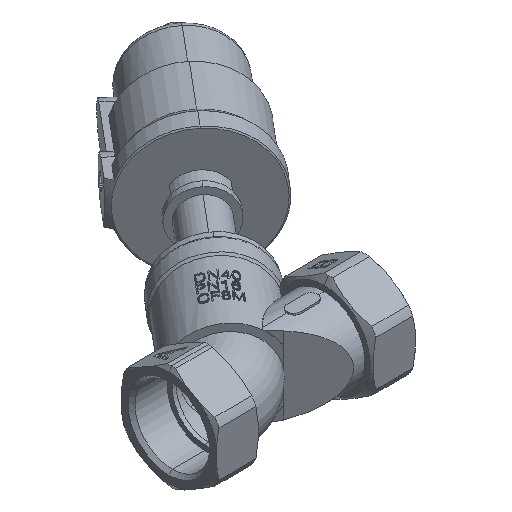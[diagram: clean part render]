
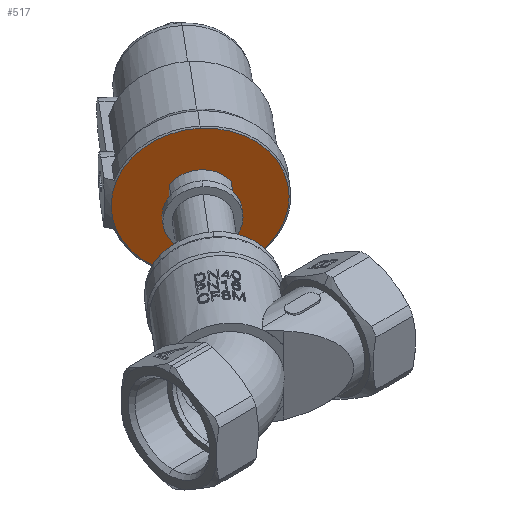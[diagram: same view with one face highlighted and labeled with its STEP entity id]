
A CAD part, isometric view. The second image highlights one B-rep face of the part: STEP entity #517.
In plain terms, the highlighted planar face has unit normal (-0.643, -0.766, 0) as drawn and (0, -1, 0) by its records, which use the part's own axes.
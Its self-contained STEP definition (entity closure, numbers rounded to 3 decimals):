
#108 = VECTOR ( 'NONE', #18576, 1000. ) ;
#142 = VERTEX_POINT ( 'NONE', #13873 ) ;
#204 = AXIS2_PLACEMENT_3D ( 'NONE', #14515, #21642, #12114 ) ;
#319 = ORIENTED_EDGE ( 'NONE', *, *, #6599, .F. ) ;
#389 = ORIENTED_EDGE ( 'NONE', *, *, #1430, .T. ) ;
#517 = ADVANCED_FACE ( 'NONE', ( #15398, #14656 ), #21864, .F. ) ;
#1430 = EDGE_CURVE ( 'NONE', #142, #16740, #12653, .T. ) ;
#1551 = DIRECTION ( 'NONE',  ( 0., 0., -1. ) ) ;
#1863 = CARTESIAN_POINT ( 'NONE',  ( 12.968, 0., -9.371 ) ) ;
#2522 = DIRECTION ( 'NONE',  ( 0., 0., 1. ) ) ;
#2606 = ORIENTED_EDGE ( 'NONE', *, *, #27794, .F. ) ;
#3270 = VERTEX_POINT ( 'NONE', #11007 ) ;
#3635 = CARTESIAN_POINT ( 'NONE',  ( 0., 0., 0. ) ) ;
#4897 = CARTESIAN_POINT ( 'NONE',  ( 0., 0., 0. ) ) ;
#5630 = VERTEX_POINT ( 'NONE', #1863 ) ;
#5957 = EDGE_CURVE ( 'NONE', #29016, #3270, #8161, .T. ) ;
#6176 = ORIENTED_EDGE ( 'NONE', *, *, #5957, .F. ) ;
#6599 = EDGE_CURVE ( 'NONE', #3270, #5630, #21631, .T. ) ;
#7303 = DIRECTION ( 'NONE',  ( 0., -1., 0. ) ) ;
#7540 = CARTESIAN_POINT ( 'NONE',  ( 0., 0., 0. ) ) ;
#8161 = LINE ( 'NONE', #9218, #22732 ) ;
#9120 = CIRCLE ( 'NONE', #204, 16. ) ;
#9218 = CARTESIAN_POINT ( 'NONE',  ( -12.968, 0., 9.371 ) ) ;
#9729 = AXIS2_PLACEMENT_3D ( 'NONE', #14280, #16678, #21804 ) ;
#10736 = EDGE_CURVE ( 'NONE', #16740, #142, #17066, .T. ) ;
#11007 = CARTESIAN_POINT ( 'NONE',  ( -12.968, 0., -9.371 ) ) ;
#12114 = DIRECTION ( 'NONE',  ( 0., 0., -1. ) ) ;
#12653 = CIRCLE ( 'NONE', #16981, 37.19 ) ;
#13873 = CARTESIAN_POINT ( 'NONE',  ( 0., 0., 37.19 ) ) ;
#14280 = CARTESIAN_POINT ( 'NONE',  ( 0., 0., 0. ) ) ;
#14515 = CARTESIAN_POINT ( 'NONE',  ( 0., 0., 0. ) ) ;
#14585 = CARTESIAN_POINT ( 'NONE',  ( 12.968, 0., 9.371 ) ) ;
#14656 = FACE_BOUND ( 'NONE', #17469, .T. ) ;
#15398 = FACE_OUTER_BOUND ( 'NONE', #29596, .T. ) ;
#15788 = AXIS2_PLACEMENT_3D ( 'NONE', #7540, #16856, #2522 ) ;
#16485 = CARTESIAN_POINT ( 'NONE',  ( 0., 0., -37.19 ) ) ;
#16630 = AXIS2_PLACEMENT_3D ( 'NONE', #3635, #25090, #1551 ) ;
#16678 = DIRECTION ( 'NONE',  ( 0., -1., 0. ) ) ;
#16740 = VERTEX_POINT ( 'NONE', #16485 ) ;
#16856 = DIRECTION ( 'NONE',  ( 0., 1., 0. ) ) ;
#16981 = AXIS2_PLACEMENT_3D ( 'NONE', #4897, #7303, #24042 ) ;
#17066 = CIRCLE ( 'NONE', #28819, 37.19 ) ;
#17469 = EDGE_LOOP ( 'NONE', ( #24244, #19667, #319, #6176, #2606 ) ) ;
#17809 = ORIENTED_EDGE ( 'NONE', *, *, #10736, .T. ) ;
#18045 = CARTESIAN_POINT ( 'NONE',  ( -12.968, 0., 9.371 ) ) ;
#18271 = CARTESIAN_POINT ( 'NONE',  ( 0., 0., 0. ) ) ;
#18395 = EDGE_CURVE ( 'NONE', #26117, #30553, #9120, .T. ) ;
#18576 = DIRECTION ( 'NONE',  ( 0., 0., 1. ) ) ;
#19667 = ORIENTED_EDGE ( 'NONE', *, *, #19881, .F. ) ;
#19881 = EDGE_CURVE ( 'NONE', #5630, #26117, #25563, .T. ) ;
#19909 = CARTESIAN_POINT ( 'NONE',  ( 0., 0., 16. ) ) ;
#20885 = DIRECTION ( 'NONE',  ( 0., 0., -1. ) ) ;
#21631 = CIRCLE ( 'NONE', #9729, 16. ) ;
#21642 = DIRECTION ( 'NONE',  ( 0., -1., 0. ) ) ;
#21804 = DIRECTION ( 'NONE',  ( 0., 0., -1. ) ) ;
#21864 = PLANE ( 'NONE',  #15788 ) ;
#22732 = VECTOR ( 'NONE', #25953, 1000. ) ;
#24042 = DIRECTION ( 'NONE',  ( 0., 0., -1. ) ) ;
#24244 = ORIENTED_EDGE ( 'NONE', *, *, #18395, .F. ) ;
#25090 = DIRECTION ( 'NONE',  ( 0., -1., 0. ) ) ;
#25563 = LINE ( 'NONE', #30497, #108 ) ;
#25791 = DIRECTION ( 'NONE',  ( 0., -1., 0. ) ) ;
#25953 = DIRECTION ( 'NONE',  ( 0., 0., -1. ) ) ;
#26105 = CIRCLE ( 'NONE', #16630, 16. ) ;
#26117 = VERTEX_POINT ( 'NONE', #14585 ) ;
#27794 = EDGE_CURVE ( 'NONE', #30553, #29016, #26105, .T. ) ;
#28819 = AXIS2_PLACEMENT_3D ( 'NONE', #18271, #25791, #20885 ) ;
#29016 = VERTEX_POINT ( 'NONE', #18045 ) ;
#29596 = EDGE_LOOP ( 'NONE', ( #17809, #389 ) ) ;
#30497 = CARTESIAN_POINT ( 'NONE',  ( 12.968, 0., 9.371 ) ) ;
#30553 = VERTEX_POINT ( 'NONE', #19909 ) ;
